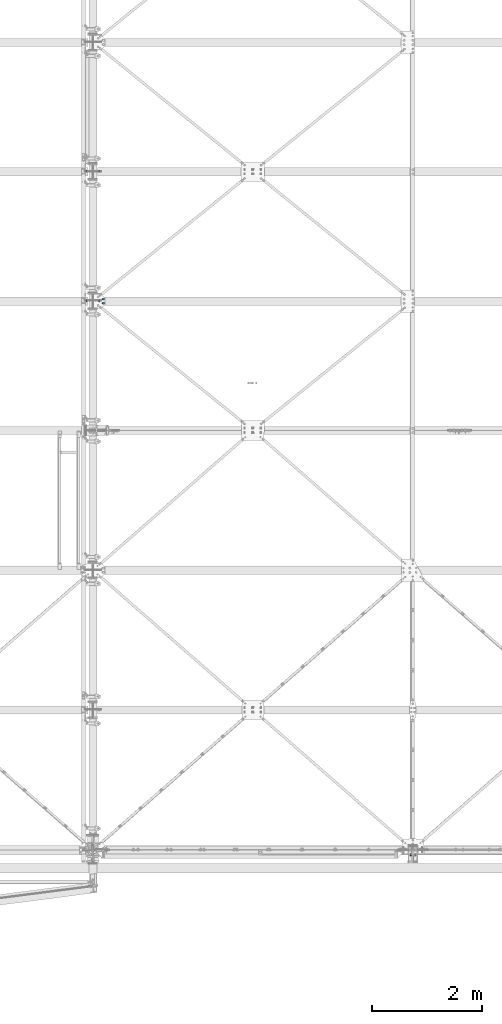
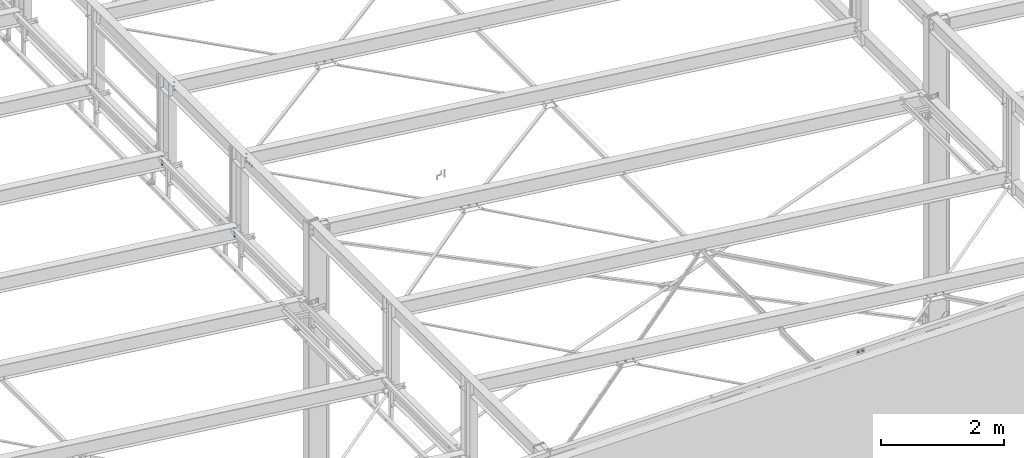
# One storey, part 119 of 3134: 6 mechanical fasteners, 5 elements without a shape of their own.
"""IFC2X3 building model written with IfcOpenShell, lengths in millimetres."""

from ifc_helpers import new_model, si_unit, frame, origin_with_axes, place, context, subcontext, project, spatial, faceted_brep, source, transform, mapped, material, type_object, element, aggregate, save


model = new_model("IFC2X3")

# Units and contexts
model_context = context("Model", 3, precision=1e-05, world=origin_with_axes())
body_context = subcontext(model_context, "Body", "Model", "MODEL_VIEW")
ifc_project = project(units=[si_unit("LENGTHUNIT", "METRE", prefix="MILLI"), si_unit("AREAUNIT", "SQUARE_METRE"), si_unit("VOLUMEUNIT", "CUBIC_METRE"), si_unit("MASSUNIT", "GRAM", prefix="KILO"), si_unit("TIMEUNIT", "SECOND"), si_unit("PLANEANGLEUNIT", "RADIAN"), si_unit("SOLIDANGLEUNIT", "STERADIAN"), si_unit("THERMODYNAMICTEMPERATUREUNIT", "DEGREE_CELSIUS"), si_unit("LUMINOUSINTENSITYUNIT", "LUMEN")], contexts=[model_context])

# Site, building, storey
site_placement = place(None, origin_with_axes())
site = spatial("IfcSite", under=ifc_project, at=site_placement, CompositionType="ELEMENT")
building_placement = place(site_placement, origin_with_axes())
building = spatial("IfcBuilding", under=site, at=building_placement, Name="Undefined", CompositionType="ELEMENT")
storey_placement = place(building_placement, origin_with_axes())
storey = spatial("IfcBuildingStorey", under=building, at=storey_placement, Name="Undefined", CompositionType="ELEMENT", Elevation=0.0)

# Assembly, mechanical fastener
assembly_1_placement = place(storey_placement, origin_with_axes())
assembly_1 = element("IfcElementAssembly", 1, at=assembly_1_placement, inside=storey, Name="300", AssemblyPlace="NOTDEFINED", PredefinedType="RIGID_FRAME")
ifc_material = material(Name="8.8")
mechanical_fastener_type = type_object("IfcMechanicalFastenerType", Name="Bolt assembly")
shared_shape_1 = source(origin_with_axes(), body_context, "Body", "Brep", [
    faceted_brep([(13.856406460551, -19.199990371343, 0.0), (6.92820323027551, -19.199990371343, 12.0), (-6.92820323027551, -19.199990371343, 12.0), (-13.856406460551, -19.199990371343, 1.69692038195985e-15), (-6.92820323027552, -19.199990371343, -12.0), (6.9282032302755, -19.199990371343, -12.0), (6.9282032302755, -9.19999037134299, -12.0), (-6.92820323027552, -9.19999037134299, -12.0), (-13.856406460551, -9.19999037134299, 1.69692038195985e-15), (-6.92820323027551, -9.19999037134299, 12.0), (6.92820323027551, -9.19999037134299, 12.0), (13.856406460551, -9.19999037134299, 0.0), (8.0, -9.19999037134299, 0.0), (6.92820323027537, -9.19999037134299, 4.00000000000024), (3.99999999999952, -9.19999037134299, 6.92820323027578), (-8.29068785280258e-13, -9.19999037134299, 8.0), (-4.00000000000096, -9.19999037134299, 6.92820323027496), (-6.9282032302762, -9.19999037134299, 3.99999999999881), (-8.0, -9.19999037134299, -1.65813757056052e-12), (-6.92820323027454, -9.19999037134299, -4.00000000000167), (-3.99999999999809, -9.19999037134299, -6.92820323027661), (2.47832457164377e-12, -9.19999037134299, -8.0), (4.00000000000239, -9.19999037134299, -6.92820323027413), (6.92820323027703, -9.19999037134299, -3.99999999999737), (6.92820323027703, 25.800009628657, -3.99999999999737), (4.00000000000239, 25.800009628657, -6.92820323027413), (2.47832457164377e-12, 25.800009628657, -8.0), (-3.99999999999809, 25.800009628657, -6.92820323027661), (-6.92820323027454, 25.800009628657, -4.00000000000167), (-8.0, 25.800009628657, -1.65813757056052e-12), (-6.9282032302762, 25.800009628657, 3.99999999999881), (-4.00000000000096, 25.800009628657, 6.92820323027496), (-8.29068785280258e-13, 25.800009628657, 8.0), (3.99999999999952, 25.800009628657, 6.92820323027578), (6.92820323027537, 25.800009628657, 4.00000000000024), (8.0, 25.800009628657, 0.0), (13.856406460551, 8.00000637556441, 0.0), (6.92820323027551, 8.00000637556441, 12.0), (-6.92820323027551, 8.00000637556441, 12.0), (-13.856406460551, 8.00000637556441, 1.69692038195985e-15), (-6.92820323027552, 8.00000637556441, -12.0), (6.9282032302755, 8.00000637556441, -12.0), (6.9282032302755, 21.0000063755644, -12.0), (-6.92820323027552, 21.0000063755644, -12.0), (-13.856406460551, 21.0000063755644, 1.69692038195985e-15), (-6.92820323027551, 21.0000063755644, 12.0), (6.92820323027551, 21.0000063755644, 12.0), (13.856406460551, 21.0000063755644, 0.0)], [[[0, 1, 2, 3, 4, 5]], [[6, 7, 8, 9, 10, 11]], [[0, 11, 10, 1]], [[1, 10, 9, 2]], [[2, 9, 8, 3]], [[3, 8, 7, 4]], [[4, 7, 6, 5]], [[5, 6, 11, 0]], [[12, 13, 14, 15, 16, 17, 18, 19, 20, 21, 22, 23]], [[24, 25, 26, 27, 28, 29, 30, 31, 32, 33, 34, 35]], [[12, 35, 34, 13]], [[13, 34, 33, 14]], [[14, 33, 32, 15]], [[15, 32, 31, 16]], [[16, 31, 30, 17]], [[17, 30, 29, 18]], [[18, 29, 28, 19]], [[19, 28, 27, 20]], [[20, 27, 26, 21]], [[21, 26, 25, 22]], [[22, 25, 24, 23]], [[23, 24, 35, 12]], [[36, 37, 38, 39, 40, 41]], [[42, 43, 44, 45, 46, 47]], [[36, 47, 46, 37]], [[37, 46, 45, 38]], [[38, 45, 44, 39]], [[39, 44, 43, 40]], [[40, 43, 42, 41]], [[41, 42, 47, 36]]]),
    faceted_brep([(9.0, -0.1, 0.0), (7.79422863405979, -0.1, 4.50000000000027), (4.49999999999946, -0.1, 7.79422863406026), (-9.3270238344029e-13, -0.1, 9.0), (-4.50000000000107, -0.1, 7.79422863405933), (-7.79422863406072, -0.1, 4.49999999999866), (-9.0, -0.1, -1.86540476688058e-12), (-7.79422863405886, -0.1, -4.50000000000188), (-4.49999999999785, -0.1, -7.79422863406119), (2.78811514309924e-12, -0.1, -9.0), (4.50000000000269, -0.1, -7.7942286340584), (7.79422863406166, -0.1, -4.49999999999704), (7.79422863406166, 8.00000000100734, -4.49999999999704), (4.50000000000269, 8.00000000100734, -7.7942286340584), (2.78811514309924e-12, 8.00000000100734, -9.0), (-4.49999999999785, 8.00000000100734, -7.79422863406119), (-7.79422863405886, 8.00000000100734, -4.50000000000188), (-9.0, 8.00000000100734, -1.86540476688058e-12), (-7.79422863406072, 8.00000000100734, 4.49999999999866), (-4.50000000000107, 8.00000000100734, 7.79422863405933), (-9.3270238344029e-13, 8.00000000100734, 9.0), (4.49999999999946, 8.00000000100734, 7.79422863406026), (7.79422863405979, 8.00000000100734, 4.50000000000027), (9.0, 8.00000000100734, 0.0), (9.0, -9.09999037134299, 0.0), (7.79422863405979, -9.09999037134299, 4.50000000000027), (4.49999999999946, -9.09999037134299, 7.79422863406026), (-9.3270238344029e-13, -9.09999037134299, 9.0), (-4.50000000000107, -9.09999037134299, 7.79422863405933), (-7.79422863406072, -9.09999037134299, 4.49999999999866), (-9.0, -9.09999037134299, -1.86540476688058e-12), (-7.79422863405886, -9.09999037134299, -4.50000000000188), (-4.49999999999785, -9.09999037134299, -7.79422863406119), (2.78811514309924e-12, -9.09999037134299, -9.0), (4.50000000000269, -9.09999037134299, -7.7942286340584), (7.79422863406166, -9.09999037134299, -4.49999999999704), (7.79422863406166, 0.100000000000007, -4.49999999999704), (4.50000000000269, 0.100000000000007, -7.7942286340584), (2.78811514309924e-12, 0.100000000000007, -9.0), (-4.49999999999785, 0.100000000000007, -7.79422863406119), (-7.79422863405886, 0.100000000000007, -4.50000000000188), (-9.0, 0.100000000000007, -1.86540476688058e-12), (-7.79422863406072, 0.100000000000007, 4.49999999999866), (-4.50000000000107, 0.100000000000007, 7.79422863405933), (-9.3270238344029e-13, 0.100000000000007, 9.0), (4.49999999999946, 0.100000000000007, 7.79422863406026), (7.79422863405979, 0.100000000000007, 4.50000000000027), (9.0, 0.100000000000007, 0.0)], [[[0, 1, 2, 3, 4, 5, 6, 7, 8, 9, 10, 11]], [[12, 13, 14, 15, 16, 17, 18, 19, 20, 21, 22, 23]], [[0, 23, 22, 1]], [[1, 22, 21, 2]], [[2, 21, 20, 3]], [[3, 20, 19, 4]], [[4, 19, 18, 5]], [[5, 18, 17, 6]], [[6, 17, 16, 7]], [[7, 16, 15, 8]], [[8, 15, 14, 9]], [[9, 14, 13, 10]], [[10, 13, 12, 11]], [[11, 12, 23, 0]], [[24, 25, 26, 27, 28, 29, 30, 31, 32, 33, 34, 35]], [[36, 37, 38, 39, 40, 41, 42, 43, 44, 45, 46, 47]], [[24, 47, 46, 25]], [[25, 46, 45, 26]], [[26, 45, 44, 27]], [[27, 44, 43, 28]], [[28, 43, 42, 29]], [[29, 42, 41, 30]], [[30, 41, 40, 31]], [[31, 40, 39, 32]], [[32, 39, 38, 33]], [[33, 38, 37, 34]], [[34, 37, 36, 35]], [[35, 36, 47, 24]]]),
])
mechanical_fastener_1_placement = place(assembly_1_placement, frame((44389.2248162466, 10047.9995130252, 5496.68063423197), z_axis=(0.992623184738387, 1.63108538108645e-05, -0.12124031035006), x_axis=(1.62000016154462e-05, -0.999999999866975, -1.90000018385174e-06)))
mechanical_fastener_1 = element("IfcMechanicalFastener", 2, at=mechanical_fastener_1_placement, type_object=mechanical_fastener_type, material=ifc_material, Name="Bolt assembly", NominalDiameter=16.0, NominalLength=35.0, context=body_context, shape_type="MappedRepresentation", body=[
    mapped(shared_shape_1, transform((0.0, 0.0, 0.0))),
    mapped(shared_shape_1, transform((76.0, 0.0, 0.0))),
])

assembly_2_placement = place(storey_placement, origin_with_axes())
assembly_2 = element("IfcElementAssembly", 3, at=assembly_2_placement, inside=storey, Name="300", AssemblyPlace="NOTDEFINED", PredefinedType="RIGID_FRAME")
shared_shape_2 = source(origin_with_axes(), body_context, "Body", "Brep", [
    faceted_brep([(13.856406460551, -13.0499999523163, 0.0), (6.92820323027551, -13.0499999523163, 12.0), (-6.92820323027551, -13.0499999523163, 12.0), (-13.856406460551, -13.0499999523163, 1.69692038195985e-15), (-6.92820323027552, -13.0499999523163, -12.0), (6.9282032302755, -13.0499999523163, -12.0), (6.9282032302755, -3.04999995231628, -12.0), (-6.92820323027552, -3.04999995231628, -12.0), (-13.856406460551, -3.04999995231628, 1.69692038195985e-15), (-6.92820323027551, -3.04999995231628, 12.0), (6.92820323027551, -3.04999995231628, 12.0), (13.856406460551, -3.04999995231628, 0.0), (8.0, -3.04999995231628, 0.0), (6.92820323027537, -3.04999995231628, 4.00000000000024), (3.99999999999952, -3.04999995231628, 6.92820323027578), (-8.29068785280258e-13, -3.04999995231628, 8.0), (-4.00000000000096, -3.04999995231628, 6.92820323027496), (-6.9282032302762, -3.04999995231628, 3.99999999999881), (-8.0, -3.04999995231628, -1.65813757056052e-12), (-6.92820323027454, -3.04999995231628, -4.00000000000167), (-3.99999999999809, -3.04999995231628, -6.92820323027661), (2.47832457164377e-12, -3.04999995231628, -8.0), (4.00000000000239, -3.04999995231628, -6.92820323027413), (6.92820323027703, -3.04999995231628, -3.99999999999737), (6.92820323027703, 31.9500000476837, -3.99999999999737), (4.00000000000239, 31.9500000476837, -6.92820323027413), (2.47832457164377e-12, 31.9500000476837, -8.0), (-3.99999999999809, 31.9500000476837, -6.92820323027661), (-6.92820323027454, 31.9500000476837, -4.00000000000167), (-8.0, 31.9500000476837, -1.65813757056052e-12), (-6.9282032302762, 31.9500000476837, 3.99999999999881), (-4.00000000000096, 31.9500000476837, 6.92820323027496), (-8.29068785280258e-13, 31.9500000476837, 8.0), (3.99999999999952, 31.9500000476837, 6.92820323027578), (6.92820323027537, 31.9500000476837, 4.00000000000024), (8.0, 31.9500000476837, 0.0), (13.856406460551, 13.0500000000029, 0.0), (6.92820323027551, 13.0500000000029, 12.0), (-6.92820323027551, 13.0500000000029, 12.0), (-13.856406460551, 13.0500000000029, 1.69692038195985e-15), (-6.92820323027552, 13.0500000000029, -12.0), (6.9282032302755, 13.0500000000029, -12.0), (6.9282032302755, 26.0500000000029, -12.0), (-6.92820323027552, 26.0500000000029, -12.0), (-13.856406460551, 26.0500000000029, 1.69692038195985e-15), (-6.92820323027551, 26.0500000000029, 12.0), (6.92820323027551, 26.0500000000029, 12.0), (13.856406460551, 26.0500000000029, 0.0)], [[[0, 1, 2, 3, 4, 5]], [[6, 7, 8, 9, 10, 11]], [[0, 11, 10, 1]], [[1, 10, 9, 2]], [[2, 9, 8, 3]], [[3, 8, 7, 4]], [[4, 7, 6, 5]], [[5, 6, 11, 0]], [[12, 13, 14, 15, 16, 17, 18, 19, 20, 21, 22, 23]], [[24, 25, 26, 27, 28, 29, 30, 31, 32, 33, 34, 35]], [[12, 35, 34, 13]], [[13, 34, 33, 14]], [[14, 33, 32, 15]], [[15, 32, 31, 16]], [[16, 31, 30, 17]], [[17, 30, 29, 18]], [[18, 29, 28, 19]], [[19, 28, 27, 20]], [[20, 27, 26, 21]], [[21, 26, 25, 22]], [[22, 25, 24, 23]], [[23, 24, 35, 12]], [[36, 37, 38, 39, 40, 41]], [[42, 43, 44, 45, 46, 47]], [[36, 47, 46, 37]], [[37, 46, 45, 38]], [[38, 45, 44, 39]], [[39, 44, 43, 40]], [[40, 43, 42, 41]], [[41, 42, 47, 36]]]),
    faceted_brep([(9.0, 2.95000000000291, 0.0), (7.79422863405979, 2.95000000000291, 4.50000000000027), (4.49999999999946, 2.95000000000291, 7.79422863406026), (-9.3270238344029e-13, 2.95000000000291, 9.0), (-4.50000000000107, 2.95000000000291, 7.79422863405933), (-7.79422863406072, 2.95000000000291, 4.49999999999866), (-9.0, 2.95000000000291, -1.86540476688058e-12), (-7.79422863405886, 2.95000000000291, -4.50000000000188), (-4.49999999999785, 2.95000000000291, -7.79422863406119), (2.78811514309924e-12, 2.95000000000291, -9.0), (4.50000000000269, 2.95000000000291, -7.7942286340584), (7.79422863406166, 2.95000000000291, -4.49999999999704), (7.79422863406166, 13.0500000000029, -4.49999999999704), (4.50000000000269, 13.0500000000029, -7.7942286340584), (2.78811514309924e-12, 13.0500000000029, -9.0), (-4.49999999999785, 13.0500000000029, -7.79422863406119), (-7.79422863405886, 13.0500000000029, -4.50000000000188), (-9.0, 13.0500000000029, -1.86540476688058e-12), (-7.79422863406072, 13.0500000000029, 4.49999999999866), (-4.50000000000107, 13.0500000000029, 7.79422863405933), (-9.3270238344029e-13, 13.0500000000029, 9.0), (4.49999999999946, 13.0500000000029, 7.79422863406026), (7.79422863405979, 13.0500000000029, 4.50000000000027), (9.0, 13.0500000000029, 0.0), (9.0, -2.94999995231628, 0.0), (7.79422863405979, -2.94999995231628, 4.50000000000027), (4.49999999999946, -2.94999995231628, 7.79422863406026), (-9.3270238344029e-13, -2.94999995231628, 9.0), (-4.50000000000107, -2.94999995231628, 7.79422863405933), (-7.79422863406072, -2.94999995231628, 4.49999999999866), (-9.0, -2.94999995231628, -1.86540476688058e-12), (-7.79422863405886, -2.94999995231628, -4.50000000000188), (-4.49999999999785, -2.94999995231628, -7.79422863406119), (2.78811514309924e-12, -2.94999995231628, -9.0), (4.50000000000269, -2.94999995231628, -7.7942286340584), (7.79422863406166, -2.94999995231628, -4.49999999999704), (7.79422863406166, 3.14999995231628, -4.49999999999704), (4.50000000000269, 3.14999995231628, -7.7942286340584), (2.78811514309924e-12, 3.14999995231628, -9.0), (-4.49999999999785, 3.14999995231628, -7.79422863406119), (-7.79422863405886, 3.14999995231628, -4.50000000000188), (-9.0, 3.14999995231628, -1.86540476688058e-12), (-7.79422863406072, 3.14999995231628, 4.49999999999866), (-4.50000000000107, 3.14999995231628, 7.79422863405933), (-9.3270238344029e-13, 3.14999995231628, 9.0), (4.49999999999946, 3.14999995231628, 7.79422863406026), (7.79422863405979, 3.14999995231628, 4.50000000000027), (9.0, 3.14999995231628, 0.0)], [[[0, 1, 2, 3, 4, 5, 6, 7, 8, 9, 10, 11]], [[12, 13, 14, 15, 16, 17, 18, 19, 20, 21, 22, 23]], [[0, 23, 22, 1]], [[1, 22, 21, 2]], [[2, 21, 20, 3]], [[3, 20, 19, 4]], [[4, 19, 18, 5]], [[5, 18, 17, 6]], [[6, 17, 16, 7]], [[7, 16, 15, 8]], [[8, 15, 14, 9]], [[9, 14, 13, 10]], [[10, 13, 12, 11]], [[11, 12, 23, 0]], [[24, 25, 26, 27, 28, 29, 30, 31, 32, 33, 34, 35]], [[36, 37, 38, 39, 40, 41, 42, 43, 44, 45, 46, 47]], [[24, 47, 46, 25]], [[25, 46, 45, 26]], [[26, 45, 44, 27]], [[27, 44, 43, 28]], [[28, 43, 42, 29]], [[29, 42, 41, 30]], [[30, 41, 40, 31]], [[31, 40, 39, 32]], [[32, 39, 38, 33]], [[33, 38, 37, 34]], [[34, 37, 36, 35]], [[35, 36, 47, 24]]]),
])
mechanical_fastener_2_placement = place(assembly_2_placement, frame((44085.0, 12370.0, 4337.44269270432), z_axis=(1.0, 0.0, 0.0), x_axis=(0.0, 0.0, -1.0)))
mechanical_fastener_2 = element("IfcMechanicalFastener", 4, at=mechanical_fastener_2_placement, type_object=mechanical_fastener_type, material=ifc_material, Name="Bolt assembly", NominalDiameter=16.0, NominalLength=35.0, context=body_context, shape_type="MappedRepresentation", body=[
    mapped(shared_shape_2, transform((0.0, 0.0, 0.0))),
    mapped(shared_shape_2, transform((80.0, 0.0, 0.0))),
    mapped(shared_shape_2, transform((160.0, 0.0, 0.0))),
])
aggregate(assembly_2, [mechanical_fastener_2])

assembly_3_placement = place(storey_placement, origin_with_axes())
assembly_3 = element("IfcElementAssembly", 5, at=assembly_3_placement, inside=storey, Name="300", AssemblyPlace="NOTDEFINED", PredefinedType="RIGID_FRAME")
mechanical_fastener_3_placement = place(assembly_3_placement, frame((44085.0, 10010.0, 4337.44269270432), z_axis=(1.0, 0.0, 0.0), x_axis=(0.0, 0.0, -1.0)))
mechanical_fastener_3 = element("IfcMechanicalFastener", 6, at=mechanical_fastener_3_placement, type_object=mechanical_fastener_type, material=ifc_material, Name="Bolt assembly", NominalDiameter=16.0, NominalLength=35.0, context=body_context, shape_type="MappedRepresentation", body=[
    mapped(shared_shape_2, transform((0.0, 0.0, 0.0))),
    mapped(shared_shape_2, transform((80.0, 0.0, 0.0))),
    mapped(shared_shape_2, transform((160.0, 0.0, 0.0))),
])
aggregate(assembly_3, [mechanical_fastener_3])

# Mechanical fastener
mechanical_fastener_4_placement = place(assembly_1_placement, frame((44315.0, 10010.0, 5735.35014950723), z_axis=(1.0, 0.0, 0.0), x_axis=(0.0, 0.0, -1.0)))
mechanical_fastener_4 = element("IfcMechanicalFastener", 7, at=mechanical_fastener_4_placement, type_object=mechanical_fastener_type, material=ifc_material, Name="Bolt assembly", NominalDiameter=16.0, NominalLength=35.0, context=body_context, shape_type="MappedRepresentation", body=[
    mapped(shared_shape_2, transform((0.0, 0.0, 0.0))),
    mapped(shared_shape_2, transform((80.0, 0.0, 0.0))),
    mapped(shared_shape_2, transform((160.0, 0.0, 0.0))),
])

aggregate(assembly_1, [mechanical_fastener_4, mechanical_fastener_1])

# Assembly, mechanical fastener
assembly_4_placement = place(storey_placement, origin_with_axes())
assembly_4 = element("IfcElementAssembly", 8, at=assembly_4_placement, inside=storey, Name="300", AssemblyPlace="NOTDEFINED", PredefinedType="RIGID_FRAME")
mechanical_fastener_5_placement = place(assembly_4_placement, frame((44315.0, 12370.0, 5735.35014950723), z_axis=(1.0, 0.0, 0.0), x_axis=(0.0, 0.0, -1.0)))
mechanical_fastener_5 = element("IfcMechanicalFastener", 9, at=mechanical_fastener_5_placement, type_object=mechanical_fastener_type, material=ifc_material, Name="Bolt assembly", NominalDiameter=16.0, NominalLength=35.0, context=body_context, shape_type="MappedRepresentation", body=[
    mapped(shared_shape_2, transform((0.0, 0.0, 0.0))),
    mapped(shared_shape_2, transform((80.0, 0.0, 0.0))),
    mapped(shared_shape_2, transform((160.0, 0.0, 0.0))),
])
aggregate(assembly_4, [mechanical_fastener_5])

assembly_5_placement = place(storey_placement, origin_with_axes())
assembly_5 = element("IfcElementAssembly", 10, at=assembly_5_placement, inside=storey, AssemblyPlace="NOTDEFINED", PredefinedType="RIGID_FRAME")
shared_shape_3 = source(origin_with_axes(), body_context, "Body", "Brep", [
    faceted_brep([(10.9696551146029, -16.5, 0.0), (5.48482755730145, -16.5, 9.5), (-5.48482755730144, -16.5, 9.5), (-10.9696551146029, -16.5, 1.34339530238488e-15), (-5.48482755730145, -16.5, -9.5), (5.48482755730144, -16.5, -9.50000000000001), (5.48482755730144, -8.5, -9.50000000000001), (-5.48482755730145, -8.5, -9.5), (-10.9696551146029, -8.5, 1.34339530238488e-15), (-5.48482755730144, -8.5, 9.5), (5.48482755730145, -8.5, 9.5), (10.9696551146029, -8.5, 0.0), (6.0, -8.5, 0.0), (5.19615242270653, -8.5, 3.00000000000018), (2.99999999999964, -8.5, 5.19615242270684), (-6.21801588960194e-13, -8.5, 6.0), (-3.00000000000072, -8.5, 5.19615242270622), (-5.19615242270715, -8.5, 2.9999999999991), (-6.0, -8.5, -1.24360317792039e-12), (-5.19615242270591, -8.5, -3.00000000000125), (-2.99999999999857, -8.5, -5.19615242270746), (1.85874342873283e-12, -8.5, -6.0), (3.00000000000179, -8.5, -5.1961524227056), (5.19615242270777, -8.5, -2.99999999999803), (5.19615242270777, 16.5, -2.99999999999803), (3.00000000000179, 16.5, -5.1961524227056), (1.85874342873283e-12, 16.5, -6.0), (-2.99999999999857, 16.5, -5.19615242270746), (-5.19615242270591, 16.5, -3.00000000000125), (-6.0, 16.5, -1.24360317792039e-12), (-5.19615242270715, 16.5, 2.9999999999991), (-3.00000000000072, 16.5, 5.19615242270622), (-6.21801588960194e-13, 16.5, 6.0), (2.99999999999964, 16.5, 5.19615242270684), (5.19615242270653, 16.5, 3.00000000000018), (6.0, 16.5, 0.0), (10.9696551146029, 3.00000000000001, 0.0), (5.48482755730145, 3.00000000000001, 9.5), (-5.48482755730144, 3.00000000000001, 9.5), (-10.9696551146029, 3.00000000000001, 1.34339530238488e-15), (-5.48482755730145, 3.00000000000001, -9.5), (5.48482755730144, 3.00000000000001, -9.50000000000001), (5.48482755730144, 13.0, -9.50000000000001), (-5.48482755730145, 13.0, -9.5), (-10.9696551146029, 13.0, 1.34339530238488e-15), (-5.48482755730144, 13.0, 9.5), (5.48482755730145, 13.0, 9.5), (10.9696551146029, 13.0, 0.0)], [[[0, 1, 2, 3, 4, 5]], [[6, 7, 8, 9, 10, 11]], [[0, 11, 10, 1]], [[1, 10, 9, 2]], [[2, 9, 8, 3]], [[3, 8, 7, 4]], [[4, 7, 6, 5]], [[5, 6, 11, 0]], [[12, 13, 14, 15, 16, 17, 18, 19, 20, 21, 22, 23]], [[24, 25, 26, 27, 28, 29, 30, 31, 32, 33, 34, 35]], [[12, 35, 34, 13]], [[13, 34, 33, 14]], [[14, 33, 32, 15]], [[15, 32, 31, 16]], [[16, 31, 30, 17]], [[17, 30, 29, 18]], [[18, 29, 28, 19]], [[19, 28, 27, 20]], [[20, 27, 26, 21]], [[21, 26, 25, 22]], [[22, 25, 24, 23]], [[23, 24, 35, 12]], [[36, 37, 38, 39, 40, 41]], [[42, 43, 44, 45, 46, 47]], [[36, 47, 46, 37]], [[37, 46, 45, 38]], [[38, 45, 44, 39]], [[39, 44, 43, 40]], [[40, 43, 42, 41]], [[41, 42, 47, 36]]]),
    faceted_brep([(7.0, -8.4, 0.0), (6.06217782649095, -8.4, 3.50000000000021), (3.49999999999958, -8.4, 6.06217782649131), (-7.25435187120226e-13, -8.4, 7.0), (-3.50000000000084, -8.4, 6.06217782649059), (-6.06217782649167, -8.4, 3.49999999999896), (-7.0, -8.4, -1.45087037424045e-12), (-6.06217782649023, -8.4, -3.50000000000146), (-3.49999999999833, -8.4, -6.06217782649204), (2.1685340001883e-12, -8.4, -7.0), (3.50000000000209, -8.4, -6.06217782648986), (6.0621778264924, -8.4, -3.4999999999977), (6.0621778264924, 0.0999999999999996, -3.4999999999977), (3.50000000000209, 0.0999999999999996, -6.06217782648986), (2.1685340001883e-12, 0.0999999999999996, -7.0), (-3.49999999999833, 0.0999999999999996, -6.06217782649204), (-6.06217782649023, 0.0999999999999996, -3.50000000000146), (-7.0, 0.0999999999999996, -1.45087037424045e-12), (-6.06217782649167, 0.0999999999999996, 3.49999999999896), (-3.50000000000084, 0.0999999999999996, 6.06217782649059), (-7.25435187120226e-13, 0.0999999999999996, 7.0), (3.49999999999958, 0.0999999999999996, 6.06217782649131), (6.06217782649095, 0.0999999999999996, 3.50000000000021), (7.0, 0.0999999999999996, 0.0), (7.0, -0.1, 0.0), (6.06217782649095, -0.1, 3.50000000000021), (3.49999999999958, -0.1, 6.06217782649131), (-7.25435187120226e-13, -0.1, 7.0), (-3.50000000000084, -0.1, 6.06217782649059), (-6.06217782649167, -0.1, 3.49999999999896), (-7.0, -0.1, -1.45087037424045e-12), (-6.06217782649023, -0.1, -3.50000000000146), (-3.49999999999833, -0.1, -6.06217782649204), (2.1685340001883e-12, -0.1, -7.0), (3.50000000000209, -0.1, -6.06217782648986), (6.0621778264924, -0.1, -3.4999999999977), (6.0621778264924, 3.0, -3.4999999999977), (3.50000000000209, 3.0, -6.06217782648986), (2.1685340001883e-12, 3.0, -7.0), (-3.49999999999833, 3.0, -6.06217782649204), (-6.06217782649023, 3.0, -3.50000000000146), (-7.0, 3.0, -1.45087037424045e-12), (-6.06217782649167, 3.0, 3.49999999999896), (-3.50000000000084, 3.0, 6.06217782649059), (-7.25435187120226e-13, 3.0, 7.0), (3.49999999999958, 3.0, 6.06217782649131), (6.06217782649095, 3.0, 3.50000000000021), (7.0, 3.0, 0.0)], [[[0, 1, 2, 3, 4, 5, 6, 7, 8, 9, 10, 11]], [[12, 13, 14, 15, 16, 17, 18, 19, 20, 21, 22, 23]], [[0, 23, 22, 1]], [[1, 22, 21, 2]], [[2, 21, 20, 3]], [[3, 20, 19, 4]], [[4, 19, 18, 5]], [[5, 18, 17, 6]], [[6, 17, 16, 7]], [[7, 16, 15, 8]], [[8, 15, 14, 9]], [[9, 14, 13, 10]], [[10, 13, 12, 11]], [[11, 12, 23, 0]], [[24, 25, 26, 27, 28, 29, 30, 31, 32, 33, 34, 35]], [[36, 37, 38, 39, 40, 41, 42, 43, 44, 45, 46, 47]], [[24, 47, 46, 25]], [[25, 46, 45, 26]], [[26, 45, 44, 27]], [[27, 44, 43, 28]], [[28, 43, 42, 29]], [[29, 42, 41, 30]], [[30, 41, 40, 31]], [[31, 40, 39, 32]], [[32, 39, 38, 33]], [[33, 38, 37, 34]], [[34, 37, 36, 35]], [[35, 36, 47, 24]]]),
])
mechanical_fastener_6_placement = place(assembly_5_placement, frame((50037.5, -92.0, 5934.99639945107), z_axis=(-1.0, 0.0, 0.0), x_axis=(0.0, 0.0, 1.0)))
mechanical_fastener_6 = element("IfcMechanicalFastener", 11, at=mechanical_fastener_6_placement, type_object=mechanical_fastener_type, material=ifc_material, Name="Bolt assembly", NominalDiameter=12.0, NominalLength=25.0, context=body_context, shape_type="MappedRepresentation", body=[
    mapped(shared_shape_3, transform((0.0, 0.0, -40.0))),
    mapped(shared_shape_3, transform((0.0, 0.0, 40.0))),
])
aggregate(assembly_5, [mechanical_fastener_6])

save(model, "model.ifc")
